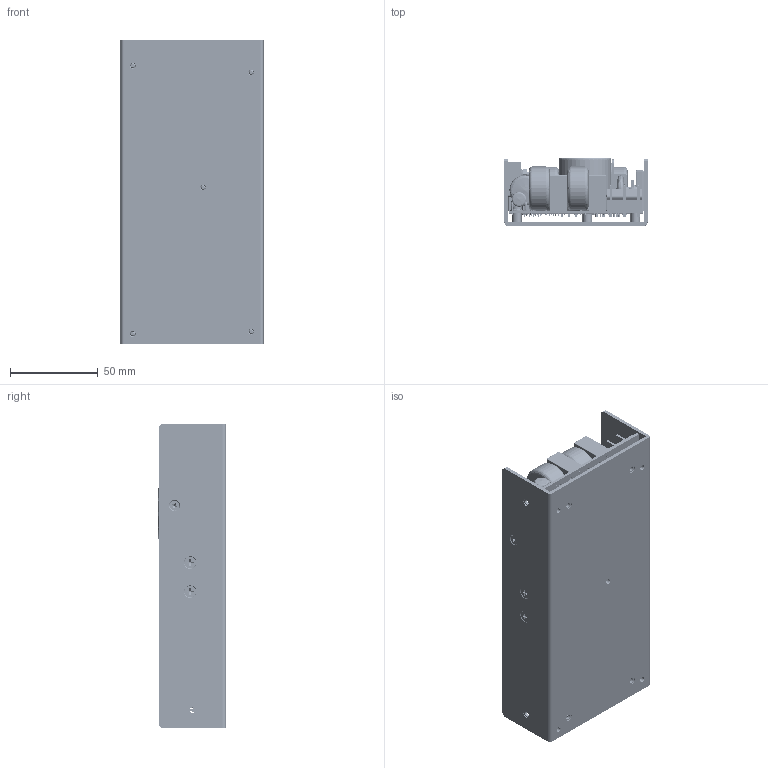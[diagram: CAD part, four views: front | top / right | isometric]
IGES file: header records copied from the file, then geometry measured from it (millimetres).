
Start section: SolidWorks IGES file using analytic representation for surfaces
Global section: file name: C:\Documents and Settings\behzar\Desktop\BEHZAR\PROJECTS\CURRENT-2010\SW-MODELS\WORKING\HELP\MFA350-U CHANAL-12V-24V-48VChannel.IGS; native system: SolidWorks 2010; preprocessor: SolidWorks 2010; author: BEHZAR; date: 100622.115658; units: inch
Bounding box: 81.28 x 38.6 x 172.72 mm (x, y, z)
Surface area: 155295.5 mm2 (no closed solid volume)
Topology: 0 solids, 0 shells, 4278 faces, 44349 edges, 44299 vertices
Faces by surface type: bspline 2608, revolution 1670
